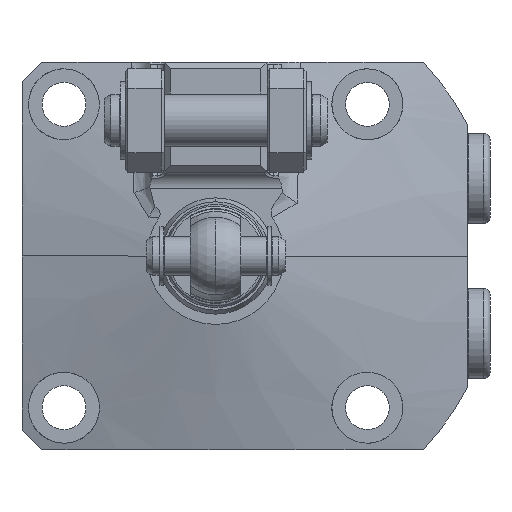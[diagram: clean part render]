
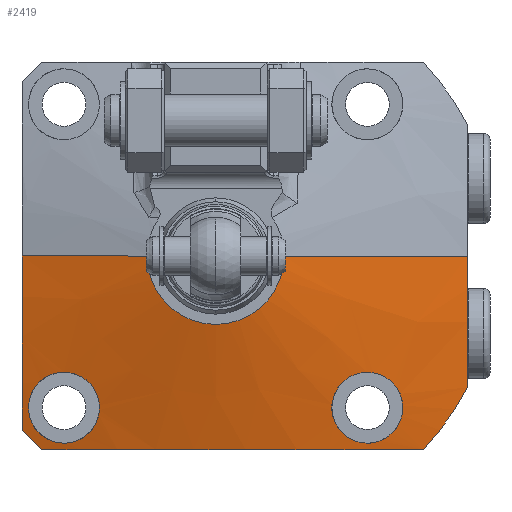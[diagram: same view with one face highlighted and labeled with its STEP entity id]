
A CAD part, left-side view. The second image highlights one B-rep face of the part: STEP entity #2419.
In plain terms, the highlighted conical face has half-angle 75 degrees and reference radius 44 mm.
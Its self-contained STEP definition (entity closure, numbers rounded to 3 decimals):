
#1756=FACE_BOUND('',#3312,.T.);
#1757=FACE_BOUND('',#3313,.T.);
#1758=FACE_BOUND('',#3314,.T.);
#1815=B_SPLINE_CURVE_WITH_KNOTS('',3,(#12771,#12772,#12773,#12774,#12775,
#12776,#12777,#12778,#12779,#12780),.UNSPECIFIED.,.F.,.F.,(4,2,2,2,4),(0.,
0.25,0.5,0.75,1.),.UNSPECIFIED.);
#1818=B_SPLINE_CURVE_WITH_KNOTS('',3,(#12825,#12826,#12827,#12828,#12829,
#12830,#12831,#12832,#12833,#12834),.UNSPECIFIED.,.F.,.F.,(4,2,2,2,4),(0.,
0.25,0.5,0.75,1.),.UNSPECIFIED.);
#1824=B_SPLINE_CURVE_WITH_KNOTS('',3,(#13095,#13096,#13097,#13098),
 .UNSPECIFIED.,.F.,.F.,(4,4),(0.,1.),.UNSPECIFIED.);
#1825=B_SPLINE_CURVE_WITH_KNOTS('',3,(#13100,#13101,#13102,#13103),
 .UNSPECIFIED.,.F.,.F.,(4,4),(0.,1.),.UNSPECIFIED.);
#1826=B_SPLINE_CURVE_WITH_KNOTS('',3,(#13105,#13106,#13107,#13108,#13109,
#13110),.UNSPECIFIED.,.F.,.F.,(4,2,4),(0.,0.5,1.),.UNSPECIFIED.);
#1827=B_SPLINE_CURVE_WITH_KNOTS('',3,(#13114,#13115,#13116,#13117),
 .UNSPECIFIED.,.F.,.F.,(4,4),(0.,1.),.UNSPECIFIED.);
#1828=B_SPLINE_CURVE_WITH_KNOTS('',3,(#13118,#13119,#13120,#13121,#13122,
#13123,#13124,#13125,#13126,#13127),.UNSPECIFIED.,.F.,.F.,(4,2,2,2,4),(0.,
0.25,0.5,0.75,1.),.UNSPECIFIED.);
#1829=B_SPLINE_CURVE_WITH_KNOTS('',3,(#13128,#13129,#13130,#13131,#13132,
#13133,#13134,#13135,#13136,#13137),.UNSPECIFIED.,.F.,.F.,(4,2,2,2,4),(0.,
0.25,0.5,0.75,1.),.UNSPECIFIED.);
#2419=ADVANCED_FACE('',(#1756,#1757,#1758),#2583,.T.);
#2583=CONICAL_SURFACE('',#8885,44.,75.);
#3312=EDGE_LOOP('',(#5567,#5568,#5569,#5570,#5571,#5572,#5573,#5574));
#3313=EDGE_LOOP('',(#5575,#5576));
#3314=EDGE_LOOP('',(#5577,#5578));
#3755=LINE('',#13041,#4130);
#3756=LINE('',#13093,#4131);
#4130=VECTOR('',#10851,1.);
#4131=VECTOR('',#10858,1.);
#5567=ORIENTED_EDGE('',*,*,#7435,.F.);
#5568=ORIENTED_EDGE('',*,*,#7441,.T.);
#5569=ORIENTED_EDGE('',*,*,#7442,.T.);
#5570=ORIENTED_EDGE('',*,*,#7443,.F.);
#5571=ORIENTED_EDGE('',*,*,#7444,.F.);
#5572=ORIENTED_EDGE('',*,*,#7445,.F.);
#5573=ORIENTED_EDGE('',*,*,#7446,.T.);
#5574=ORIENTED_EDGE('',*,*,#7447,.F.);
#5575=ORIENTED_EDGE('',*,*,#7339,.T.);
#5576=ORIENTED_EDGE('',*,*,#7448,.T.);
#5577=ORIENTED_EDGE('',*,*,#7327,.T.);
#5578=ORIENTED_EDGE('',*,*,#7449,.T.);
#6502=VERTEX_POINT('',#12770);
#6503=VERTEX_POINT('',#12781);
#6514=VERTEX_POINT('',#12824);
#6515=VERTEX_POINT('',#12835);
#6591=VERTEX_POINT('',#13040);
#6592=VERTEX_POINT('',#13042);
#6597=VERTEX_POINT('',#13092);
#6598=VERTEX_POINT('',#13094);
#6599=VERTEX_POINT('',#13099);
#6600=VERTEX_POINT('',#13104);
#6601=VERTEX_POINT('',#13111);
#6602=VERTEX_POINT('',#13113);
#7327=EDGE_CURVE('',#6503,#6502,#1815,.T.);
#7339=EDGE_CURVE('',#6515,#6514,#1818,.T.);
#7435=EDGE_CURVE('',#6591,#6592,#3755,.T.);
#7441=EDGE_CURVE('',#6591,#6597,#8070,.T.);
#7442=EDGE_CURVE('',#6597,#6598,#3756,.T.);
#7443=EDGE_CURVE('',#6599,#6598,#1824,.T.);
#7444=EDGE_CURVE('',#6600,#6599,#1825,.T.);
#7445=EDGE_CURVE('',#6601,#6600,#1826,.T.);
#7446=EDGE_CURVE('',#6601,#6602,#8071,.T.);
#7447=EDGE_CURVE('',#6592,#6602,#1827,.T.);
#7448=EDGE_CURVE('',#6514,#6515,#1828,.T.);
#7449=EDGE_CURVE('',#6502,#6503,#1829,.T.);
#8070=CIRCLE('',#8883,10.598);
#8071=CIRCLE('',#8884,44.);
#8883=AXIS2_PLACEMENT_3D('',#13091,#10856,#10857);
#8884=AXIS2_PLACEMENT_3D('',#13112,#10859,#10860);
#8885=AXIS2_PLACEMENT_3D('',#13138,#10861,#10862);
#10851=DIRECTION('',(0.259,-0.966,0.));
#10856=DIRECTION('',(1.,0.,0.));
#10857=DIRECTION('',(0.,0.,1.));
#10858=DIRECTION('',(0.259,0.966,0.));
#10859=DIRECTION('',(-1.,0.,0.));
#10860=DIRECTION('',(0.,-1.,0.));
#10861=DIRECTION('',(1.,0.,0.));
#10862=DIRECTION('',(0.,-1.,0.));
#12770=CARTESIAN_POINT('',(-20.838,-23.5,-29.));
#12771=CARTESIAN_POINT('',(-22.908,-23.5,-18.));
#12772=CARTESIAN_POINT('',(-22.601,-24.946,-18.));
#12773=CARTESIAN_POINT('',(-22.204,-26.334,-18.579));
#12774=CARTESIAN_POINT('',(-21.456,-28.355,-20.555));
#12775=CARTESIAN_POINT('',(-21.103,-28.972,-21.961));
#12776=CARTESIAN_POINT('',(-20.609,-29.026,-24.83));
#12777=CARTESIAN_POINT('',(-20.465,-28.455,-26.301));
#12778=CARTESIAN_POINT('',(-20.458,-26.405,-28.395));
#12779=CARTESIAN_POINT('',(-20.592,-24.958,-29.));
#12780=CARTESIAN_POINT('',(-20.838,-23.5,-29.));
#12781=CARTESIAN_POINT('',(-22.908,-23.5,-18.));
#12824=CARTESIAN_POINT('',(-20.838,23.5,-29.));
#12825=CARTESIAN_POINT('',(-22.908,23.5,-18.));
#12826=CARTESIAN_POINT('',(-23.216,22.052,-18.));
#12827=CARTESIAN_POINT('',(-23.412,20.605,-18.601));
#12828=CARTESIAN_POINT('',(-23.405,18.556,-20.682));
#12829=CARTESIAN_POINT('',(-23.2,17.979,-22.146));
#12830=CARTESIAN_POINT('',(-22.581,18.022,-25.02));
#12831=CARTESIAN_POINT('',(-22.181,18.622,-26.411));
#12832=CARTESIAN_POINT('',(-21.431,20.641,-28.408));
#12833=CARTESIAN_POINT('',(-21.084,22.04,-29.));
#12834=CARTESIAN_POINT('',(-20.838,23.5,-29.));
#12835=CARTESIAN_POINT('',(-22.908,23.5,-18.));
#13040=CARTESIAN_POINT('',(-28.,-10.598,0.));
#13041=CARTESIAN_POINT('',(-19.05,-44.,0.));
#13042=CARTESIAN_POINT('',(-20.39,-39.,0.));
#13091=CARTESIAN_POINT('',(-28.,0.,0.));
#13092=CARTESIAN_POINT('',(-28.,10.598,0.));
#13093=CARTESIAN_POINT('',(-19.05,44.,0.));
#13094=CARTESIAN_POINT('',(-22.801,30.,0.));
#13095=CARTESIAN_POINT('',(-20.025,30.,-27.));
#13096=CARTESIAN_POINT('',(-21.626,30.,-18.069));
#13097=CARTESIAN_POINT('',(-22.801,30.,-9.095));
#13098=CARTESIAN_POINT('',(-22.801,30.,0.));
#13099=CARTESIAN_POINT('',(-20.025,30.,-27.));
#13100=CARTESIAN_POINT('',(-20.025,27.,-30.));
#13101=CARTESIAN_POINT('',(-20.045,28.,-29.));
#13102=CARTESIAN_POINT('',(-20.045,29.,-28.));
#13103=CARTESIAN_POINT('',(-20.025,30.,-27.));
#13104=CARTESIAN_POINT('',(-20.025,27.,-30.));
#13105=CARTESIAN_POINT('',(-19.05,-32.187,-30.));
#13106=CARTESIAN_POINT('',(-20.964,-22.421,-30.));
#13107=CARTESIAN_POINT('',(-22.526,-12.631,-30.));
#13108=CARTESIAN_POINT('',(-23.009,7.128,-30.));
#13109=CARTESIAN_POINT('',(-21.793,17.138,-30.));
#13110=CARTESIAN_POINT('',(-20.025,27.,-30.));
#13111=CARTESIAN_POINT('',(-19.05,-32.187,-30.));
#13112=CARTESIAN_POINT('',(-19.05,0.,0.));
#13113=CARTESIAN_POINT('',(-19.05,-39.,-20.372));
#13114=CARTESIAN_POINT('',(-20.39,-39.,0.));
#13115=CARTESIAN_POINT('',(-20.39,-39.,-6.82));
#13116=CARTESIAN_POINT('',(-19.889,-39.,-13.607));
#13117=CARTESIAN_POINT('',(-19.05,-39.,-20.372));
#13118=CARTESIAN_POINT('',(-20.838,23.5,-29.));
#13119=CARTESIAN_POINT('',(-20.592,24.957,-29.));
#13120=CARTESIAN_POINT('',(-20.458,26.404,-28.393));
#13121=CARTESIAN_POINT('',(-20.464,28.446,-26.313));
#13122=CARTESIAN_POINT('',(-20.607,29.025,-24.846));
#13123=CARTESIAN_POINT('',(-21.103,28.973,-21.959));
#13124=CARTESIAN_POINT('',(-21.454,28.36,-20.559));
#13125=CARTESIAN_POINT('',(-22.206,26.331,-18.576));
#13126=CARTESIAN_POINT('',(-22.601,24.945,-18.));
#13127=CARTESIAN_POINT('',(-22.908,23.5,-18.));
#13128=CARTESIAN_POINT('',(-20.838,-23.5,-29.));
#13129=CARTESIAN_POINT('',(-21.084,-22.04,-29.));
#13130=CARTESIAN_POINT('',(-21.432,-20.637,-28.404));
#13131=CARTESIAN_POINT('',(-22.18,-18.626,-26.414));
#13132=CARTESIAN_POINT('',(-22.582,-18.024,-25.014));
#13133=CARTESIAN_POINT('',(-23.196,-17.978,-22.164));
#13134=CARTESIAN_POINT('',(-23.404,-18.546,-20.696));
#13135=CARTESIAN_POINT('',(-23.413,-20.603,-18.599));
#13136=CARTESIAN_POINT('',(-23.216,-22.052,-18.));
#13137=CARTESIAN_POINT('',(-22.908,-23.5,-18.));
#13138=CARTESIAN_POINT('',(-19.05,0.,0.));
